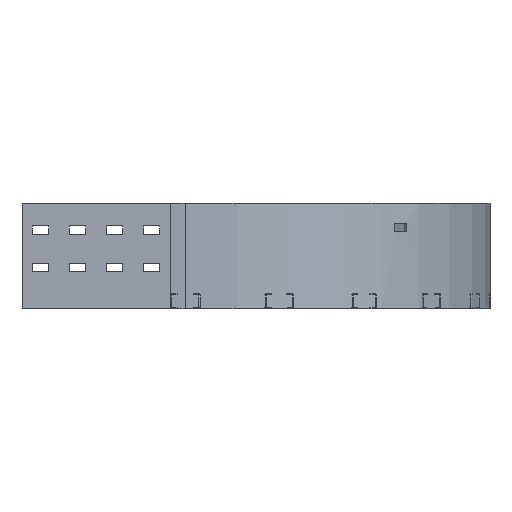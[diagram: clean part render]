
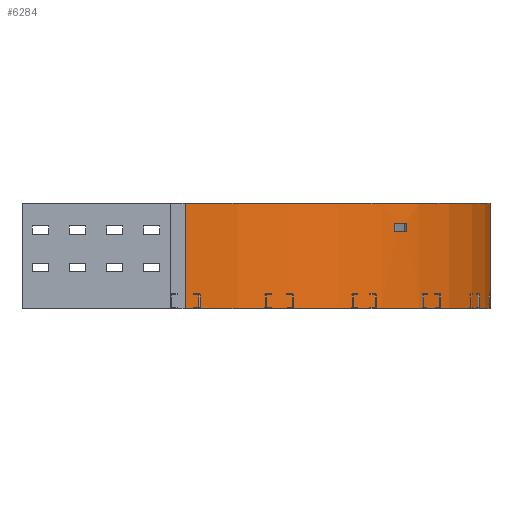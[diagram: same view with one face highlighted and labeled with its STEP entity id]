
A CAD part, front view. The second image highlights one B-rep face of the part: STEP entity #6284.
In plain terms, the highlighted cylindrical face has radius 411 mm (diameter 822 mm), a partial arc.
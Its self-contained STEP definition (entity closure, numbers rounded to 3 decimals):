
#155=FACE_BOUND('',#820,.T.);
#235=CYLINDRICAL_SURFACE('',#6647,411.);
#268=CIRCLE('',#6639,411.);
#273=CIRCLE('',#6646,411.);
#274=CIRCLE('',#6648,411.);
#275=CIRCLE('',#6649,411.);
#482=FACE_OUTER_BOUND('',#819,.T.);
#819=EDGE_LOOP('',(#4256,#4257,#4258,#4259));
#820=EDGE_LOOP('',(#4260,#4261,#4262,#4263));
#1235=LINE('',#8845,#1951);
#1241=LINE('',#8869,#1957);
#1242=LINE('',#8874,#1958);
#1243=LINE('',#8877,#1959);
#1951=VECTOR('',#7162,304.8);
#1957=VECTOR('',#7188,304.8);
#1958=VECTOR('',#7191,304.8);
#1959=VECTOR('',#7194,304.8);
#2664=VERTEX_POINT('',#8838);
#2667=VERTEX_POINT('',#8843);
#2668=VERTEX_POINT('',#8847);
#2675=VERTEX_POINT('',#8865);
#2676=VERTEX_POINT('',#8870);
#2677=VERTEX_POINT('',#8871);
#2678=VERTEX_POINT('',#8873);
#2679=VERTEX_POINT('',#8875);
#3291=EDGE_CURVE('',#2667,#2664,#1235,.T.);
#3292=EDGE_CURVE('',#2664,#2668,#268,.T.);
#3302=EDGE_CURVE('',#2675,#2667,#273,.T.);
#3303=EDGE_CURVE('',#2668,#2675,#1241,.T.);
#3304=EDGE_CURVE('',#2676,#2677,#274,.T.);
#3305=EDGE_CURVE('',#2677,#2678,#1242,.T.);
#3306=EDGE_CURVE('',#2678,#2679,#275,.T.);
#3307=EDGE_CURVE('',#2679,#2676,#1243,.T.);
#4256=ORIENTED_EDGE('',*,*,#3291,.F.);
#4257=ORIENTED_EDGE('',*,*,#3302,.F.);
#4258=ORIENTED_EDGE('',*,*,#3303,.F.);
#4259=ORIENTED_EDGE('',*,*,#3292,.F.);
#4260=ORIENTED_EDGE('',*,*,#3304,.T.);
#4261=ORIENTED_EDGE('',*,*,#3305,.T.);
#4262=ORIENTED_EDGE('',*,*,#3306,.T.);
#4263=ORIENTED_EDGE('',*,*,#3307,.T.);
#6284=ADVANCED_FACE('',(#482,#155),#235,.T.);
#6639=AXIS2_PLACEMENT_3D('',#8848,#7165,#7166);
#6646=AXIS2_PLACEMENT_3D('',#8867,#7184,#7185);
#6647=AXIS2_PLACEMENT_3D('',#8868,#7186,#7187);
#6648=AXIS2_PLACEMENT_3D('',#8872,#7189,#7190);
#6649=AXIS2_PLACEMENT_3D('',#8876,#7192,#7193);
#7162=DIRECTION('',(0.,0.,1.));
#7165=DIRECTION('center_axis',(0.,0.,1.));
#7166=DIRECTION('ref_axis',(0.,-1.,0.));
#7184=DIRECTION('center_axis',(0.,0.,-1.));
#7185=DIRECTION('ref_axis',(0.,-1.,0.));
#7186=DIRECTION('center_axis',(0.,0.,1.));
#7187=DIRECTION('ref_axis',(0.,-1.,0.));
#7188=DIRECTION('',(0.,0.,-1.));
#7189=DIRECTION('center_axis',(0.,0.,1.));
#7190=DIRECTION('ref_axis',(0.,-1.,0.));
#7191=DIRECTION('',(0.,0.,-1.));
#7192=DIRECTION('center_axis',(0.,0.,-1.));
#7193=DIRECTION('ref_axis',(0.,-1.,0.));
#7194=DIRECTION('',(0.,0.,1.));
#8838=CARTESIAN_POINT('',(-355.5,-55.5,71.));
#8843=CARTESIAN_POINT('',(-355.5,-55.5,-71.));
#8845=CARTESIAN_POINT('',(-355.5,-55.5,-71.));
#8847=CARTESIAN_POINT('',(55.5,355.5,71.));
#8848=CARTESIAN_POINT('Origin',(-355.5,355.5,71.));
#8865=CARTESIAN_POINT('',(55.5,355.5,-71.));
#8867=CARTESIAN_POINT('Origin',(-355.5,355.5,-71.));
#8868=CARTESIAN_POINT('Origin',(-355.5,355.5,0.));
#8869=CARTESIAN_POINT('',(55.5,355.5,71.));
#8870=CARTESIAN_POINT('',(-72.721,57.243,44.));
#8871=CARTESIAN_POINT('',(-57.167,72.802,44.));
#8872=CARTESIAN_POINT('Origin',(-355.5,355.5,44.));
#8873=CARTESIAN_POINT('',(-57.167,72.802,33.));
#8874=CARTESIAN_POINT('',(-57.167,72.802,44.));
#8875=CARTESIAN_POINT('',(-72.721,57.243,33.));
#8876=CARTESIAN_POINT('Origin',(-355.5,355.5,33.));
#8877=CARTESIAN_POINT('',(-72.721,57.243,33.));
